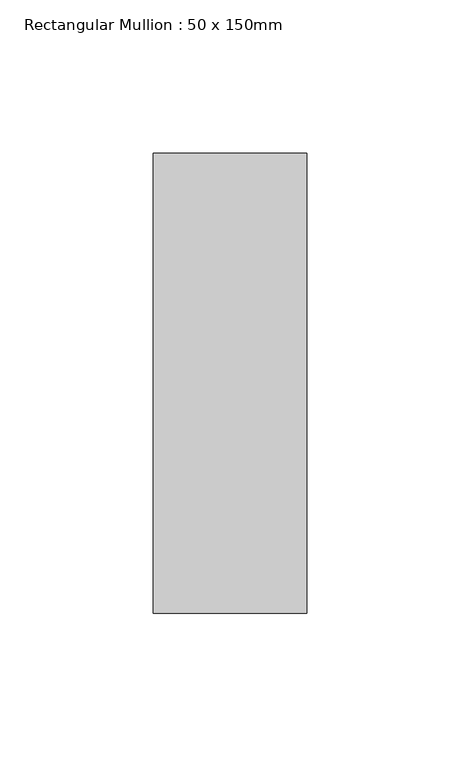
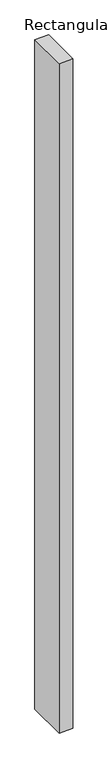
"""IFC4 building model written with IfcOpenShell, lengths in millimetres: member geometry, Rectangular Mullion : 50 x 150mm."""

from ifc_helpers import new_model, si_unit, frame, origin, place, context, project, spatial, polyline, outline, extrude, source, transform, mapped, element, save


def rectangular_mullion_50_x_150mm_135835cf(model_context):
    return source(origin(), model_context, "Body", "SweptSolid", [
        extrude(outline(polyline([(0.0, 75.0), (0.0, -75.0), (-50.0, -75.0), (-50.0, 75.0), (0.0, 75.0)])), frame((0.0, 0.0, -2540.0), z_axis=(0.0, 0.0, 1.0), x_axis=(1.0, 0.0, 0.0)), (0.0, 0.0, 1.0), 2540.0),
    ])


if __name__ == "__main__":
    model = new_model("IFC4")
    model_context = context("Model", 3, world=origin())
    ifc_project = project(units=[si_unit("LENGTHUNIT", "METRE", prefix="MILLI")], contexts=[model_context])
    site = spatial("IfcSite", under=ifc_project)
    building = spatial("IfcBuilding", under=site)
    placement = place(None, origin())
    rectangular_mullion_50_x_150mm_shape = rectangular_mullion_50_x_150mm_135835cf(model_context)
    element("IfcMember", 1, ObjectType="Rectangular Mullion : 50 x 150mm", at=placement, inside=building, context=model_context, shape_type="MappedRepresentation", body=[
        mapped(rectangular_mullion_50_x_150mm_shape, transform((0.0, 0.0, 0.0), x_axis=(1.0, 0.0, 0.0), y_axis=(0.0, 1.0, 0.0), z_axis=(0.0, 0.0, 1.0))),
    ])
    save(model, "model.ifc")
